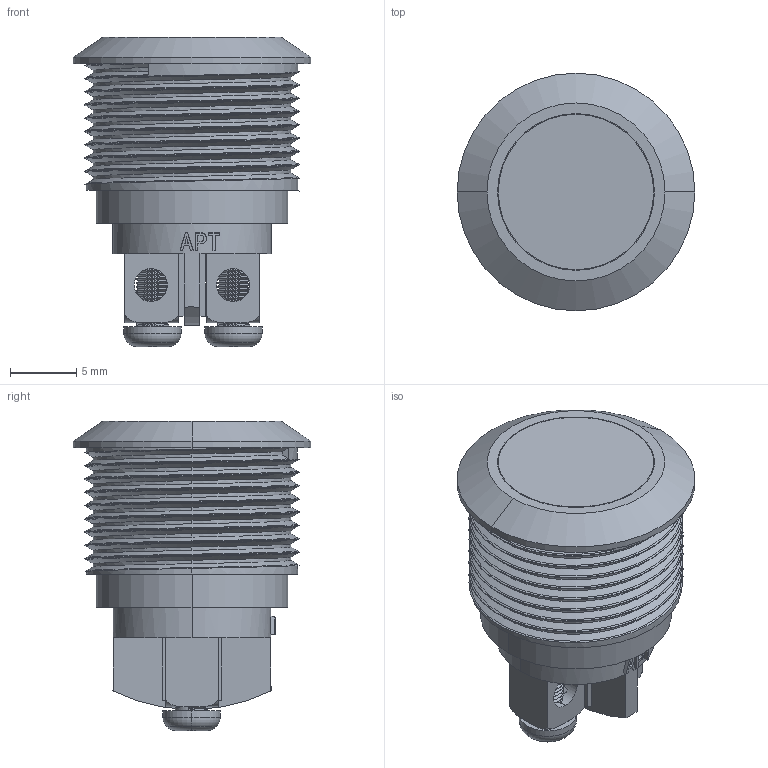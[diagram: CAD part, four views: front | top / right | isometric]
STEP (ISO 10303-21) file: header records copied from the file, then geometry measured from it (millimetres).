
FILE_DESCRIPTION(/* description */ (''),/* implementation_level */ '2;1');
FILE_NAME(/* name */ 'FM16E-SFS-10.stp',/* time_stamp */ '2020-07-08T15:39:59+08:00',/* author */ (''),/* organization */ (''),/* preprocessor_version */ 'ST-DEVELOPER v16.7',/* originating_system */ 'SIEMENS PLM Software NX 12.0',/* authorisation */ '');
FILE_SCHEMA (('AUTOMOTIVE_DESIGN { 1 0 10303 214 3 1 1 1 }'));
Length unit declared in the file: millimetre
Products named in the file (1): Admi5394C1BD4r3p
Bounding box: 17.9 x 17.9 x 23.3 mm (x, y, z)
Volume: 1032.8 mm3; surface area: 4096.1 mm2
Topology: 10 solids, 13 shells, 531 faces, 1460 edges, 970 vertices
Faces by surface type: cylinder 311, plane 142, bspline 34, torus 20, cone 20, extrusion 4
Entity records: 33379 total; most frequent: CARTESIAN_POINT 20763, ORIENTED_EDGE 2823, DIRECTION 1947, EDGE_CURVE 1455, VERTEX_POINT 965, B_SPLINE_CURVE_WITH_KNOTS 739, AXIS2_PLACEMENT_3D 724, EDGE_LOOP 574
